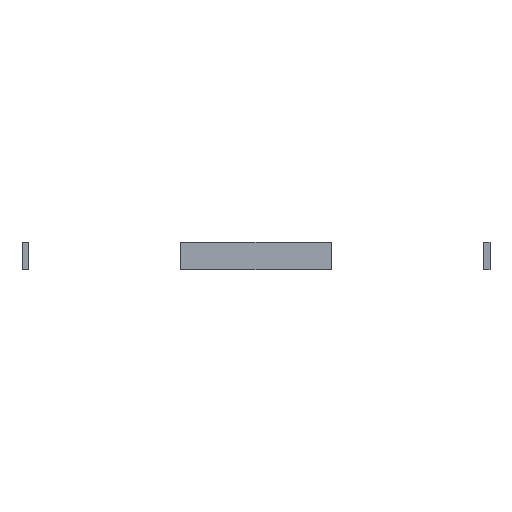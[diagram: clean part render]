
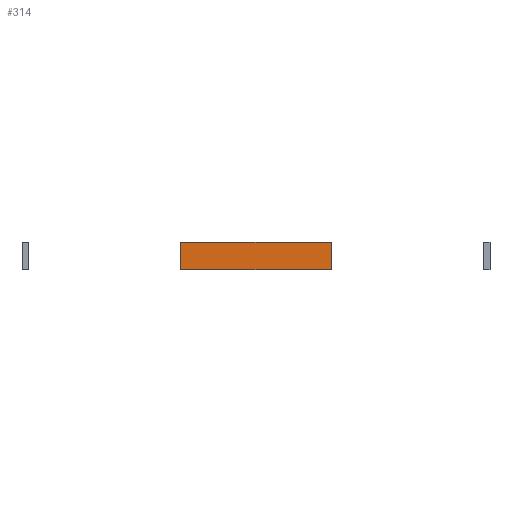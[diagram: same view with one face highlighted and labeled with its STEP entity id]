
A CAD part, left-side view. The second image highlights one B-rep face of the part: STEP entity #314.
In plain terms, the highlighted planar face has unit normal (-1, 0, 0).
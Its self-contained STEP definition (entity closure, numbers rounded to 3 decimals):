
#51 = EDGE_CURVE('',#52,#54,#56,.T.);
#52 = VERTEX_POINT('',#53);
#53 = CARTESIAN_POINT('',(-30.65,-1.,2.));
#54 = VERTEX_POINT('',#55);
#55 = CARTESIAN_POINT('',(-30.65,-1.,4.2));
#56 = SURFACE_CURVE('',#57,(#61,#73),.PCURVE_S1.);
#57 = LINE('',#58,#59);
#58 = CARTESIAN_POINT('',(-30.65,-1.,2.));
#59 = VECTOR('',#60,1.);
#60 = DIRECTION('',(0.,0.,1.));
#61 = PCURVE('',#62,#67);
#62 = PLANE('',#63);
#63 = AXIS2_PLACEMENT_3D('',#64,#65,#66);
#64 = CARTESIAN_POINT('',(-30.65,-1.,2.));
#65 = DIRECTION('',(0.,1.,0.));
#66 = DIRECTION('',(1.,0.,0.));
#67 = DEFINITIONAL_REPRESENTATION('',(#68),#72);
#68 = LINE('',#69,#70);
#69 = CARTESIAN_POINT('',(0.,0.));
#70 = VECTOR('',#71,1.);
#71 = DIRECTION('',(0.,-1.));
#72 = ( GEOMETRIC_REPRESENTATION_CONTEXT(2) 
PARAMETRIC_REPRESENTATION_CONTEXT() REPRESENTATION_CONTEXT('2D SPACE',''
  ) );
#73 = PCURVE('',#74,#79);
#74 = PLANE('',#75);
#75 = AXIS2_PLACEMENT_3D('',#76,#77,#78);
#76 = CARTESIAN_POINT('',(-30.65,11.,2.));
#77 = DIRECTION('',(1.,0.,-0.));
#78 = DIRECTION('',(0.,-1.,0.));
#79 = DEFINITIONAL_REPRESENTATION('',(#80),#84);
#80 = LINE('',#81,#82);
#81 = CARTESIAN_POINT('',(12.,0.));
#82 = VECTOR('',#83,1.);
#83 = DIRECTION('',(0.,-1.));
#84 = ( GEOMETRIC_REPRESENTATION_CONTEXT(2) 
PARAMETRIC_REPRESENTATION_CONTEXT() REPRESENTATION_CONTEXT('2D SPACE',''
  ) );
#102 = PLANE('',#103);
#103 = AXIS2_PLACEMENT_3D('',#104,#105,#106);
#104 = CARTESIAN_POINT('',(-30.375,5.,4.2));
#105 = DIRECTION('',(0.,0.,1.));
#106 = DIRECTION('',(1.,0.,-0.));
#156 = PLANE('',#157);
#157 = AXIS2_PLACEMENT_3D('',#158,#159,#160);
#158 = CARTESIAN_POINT('',(-30.375,5.,2.));
#159 = DIRECTION('',(0.,0.,1.));
#160 = DIRECTION('',(1.,0.,-0.));
#211 = PLANE('',#212);
#212 = AXIS2_PLACEMENT_3D('',#213,#214,#215);
#213 = CARTESIAN_POINT('',(-30.1,11.,2.));
#214 = DIRECTION('',(0.,-1.,0.));
#215 = DIRECTION('',(-1.,0.,0.));
#249 = VERTEX_POINT('',#250);
#250 = CARTESIAN_POINT('',(-30.65,11.,4.2));
#271 = EDGE_CURVE('',#272,#249,#274,.T.);
#272 = VERTEX_POINT('',#273);
#273 = CARTESIAN_POINT('',(-30.65,11.,2.));
#274 = SURFACE_CURVE('',#275,(#279,#286),.PCURVE_S1.);
#275 = LINE('',#276,#277);
#276 = CARTESIAN_POINT('',(-30.65,11.,2.));
#277 = VECTOR('',#278,1.);
#278 = DIRECTION('',(0.,0.,1.));
#279 = PCURVE('',#211,#280);
#280 = DEFINITIONAL_REPRESENTATION('',(#281),#285);
#281 = LINE('',#282,#283);
#282 = CARTESIAN_POINT('',(0.55,0.));
#283 = VECTOR('',#284,1.);
#284 = DIRECTION('',(0.,-1.));
#285 = ( GEOMETRIC_REPRESENTATION_CONTEXT(2) 
PARAMETRIC_REPRESENTATION_CONTEXT() REPRESENTATION_CONTEXT('2D SPACE',''
  ) );
#286 = PCURVE('',#74,#287);
#287 = DEFINITIONAL_REPRESENTATION('',(#288),#292);
#288 = LINE('',#289,#290);
#289 = CARTESIAN_POINT('',(0.,0.));
#290 = VECTOR('',#291,1.);
#291 = DIRECTION('',(0.,-1.));
#292 = ( GEOMETRIC_REPRESENTATION_CONTEXT(2) 
PARAMETRIC_REPRESENTATION_CONTEXT() REPRESENTATION_CONTEXT('2D SPACE',''
  ) );
#314 = ADVANCED_FACE('',(#315),#74,.F.);
#315 = FACE_BOUND('',#316,.F.);
#316 = EDGE_LOOP('',(#317,#318,#339,#340));
#317 = ORIENTED_EDGE('',*,*,#271,.T.);
#318 = ORIENTED_EDGE('',*,*,#319,.T.);
#319 = EDGE_CURVE('',#249,#54,#320,.T.);
#320 = SURFACE_CURVE('',#321,(#325,#332),.PCURVE_S1.);
#321 = LINE('',#322,#323);
#322 = CARTESIAN_POINT('',(-30.65,11.,4.2));
#323 = VECTOR('',#324,1.);
#324 = DIRECTION('',(0.,-1.,0.));
#325 = PCURVE('',#74,#326);
#326 = DEFINITIONAL_REPRESENTATION('',(#327),#331);
#327 = LINE('',#328,#329);
#328 = CARTESIAN_POINT('',(0.,-2.2));
#329 = VECTOR('',#330,1.);
#330 = DIRECTION('',(1.,0.));
#331 = ( GEOMETRIC_REPRESENTATION_CONTEXT(2) 
PARAMETRIC_REPRESENTATION_CONTEXT() REPRESENTATION_CONTEXT('2D SPACE',''
  ) );
#332 = PCURVE('',#102,#333);
#333 = DEFINITIONAL_REPRESENTATION('',(#334),#338);
#334 = LINE('',#335,#336);
#335 = CARTESIAN_POINT('',(-0.275,6.));
#336 = VECTOR('',#337,1.);
#337 = DIRECTION('',(0.,-1.));
#338 = ( GEOMETRIC_REPRESENTATION_CONTEXT(2) 
PARAMETRIC_REPRESENTATION_CONTEXT() REPRESENTATION_CONTEXT('2D SPACE',''
  ) );
#339 = ORIENTED_EDGE('',*,*,#51,.F.);
#340 = ORIENTED_EDGE('',*,*,#341,.F.);
#341 = EDGE_CURVE('',#272,#52,#342,.T.);
#342 = SURFACE_CURVE('',#343,(#347,#354),.PCURVE_S1.);
#343 = LINE('',#344,#345);
#344 = CARTESIAN_POINT('',(-30.65,11.,2.));
#345 = VECTOR('',#346,1.);
#346 = DIRECTION('',(0.,-1.,0.));
#347 = PCURVE('',#74,#348);
#348 = DEFINITIONAL_REPRESENTATION('',(#349),#353);
#349 = LINE('',#350,#351);
#350 = CARTESIAN_POINT('',(0.,0.));
#351 = VECTOR('',#352,1.);
#352 = DIRECTION('',(1.,0.));
#353 = ( GEOMETRIC_REPRESENTATION_CONTEXT(2) 
PARAMETRIC_REPRESENTATION_CONTEXT() REPRESENTATION_CONTEXT('2D SPACE',''
  ) );
#354 = PCURVE('',#156,#355);
#355 = DEFINITIONAL_REPRESENTATION('',(#356),#360);
#356 = LINE('',#357,#358);
#357 = CARTESIAN_POINT('',(-0.275,6.));
#358 = VECTOR('',#359,1.);
#359 = DIRECTION('',(0.,-1.));
#360 = ( GEOMETRIC_REPRESENTATION_CONTEXT(2) 
PARAMETRIC_REPRESENTATION_CONTEXT() REPRESENTATION_CONTEXT('2D SPACE',''
  ) );
